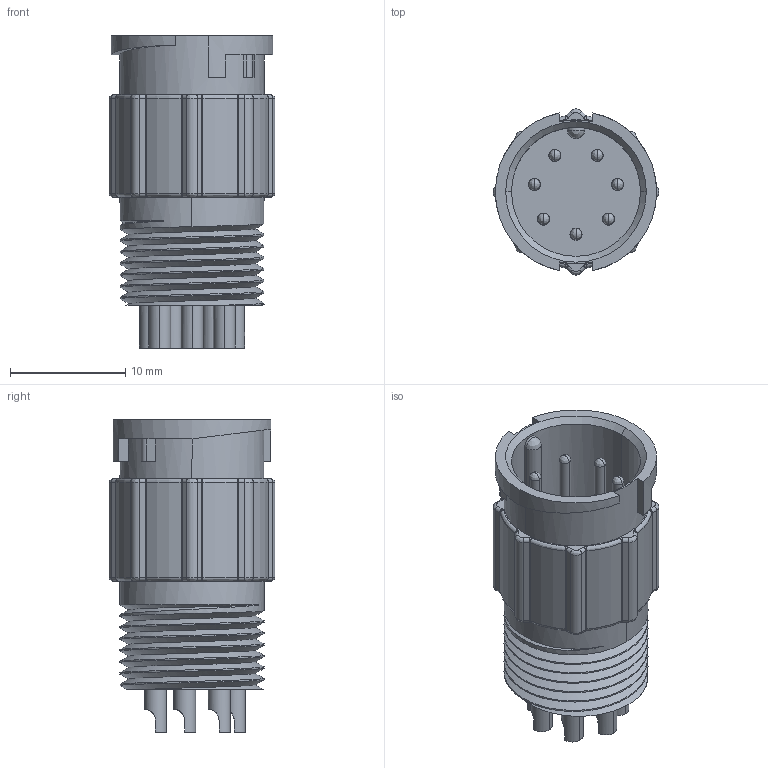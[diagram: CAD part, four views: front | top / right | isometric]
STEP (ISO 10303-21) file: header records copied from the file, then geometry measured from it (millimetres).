
FILE_DESCRIPTION (( 'STEP AP203' ), '1' );
FILE_NAME ('868-007-103R001.STEP', '2025-12-17T18:28:17', ( '' ), ( '' ), 'SwSTEP 2.0', 'SolidWorks 2020', '' );
FILE_SCHEMA (( 'CONFIG_CONTROL_DESIGN' ));
Length unit declared in the file: millimetre
Products named in the file (1): 868-007-103R001
Bounding box: 14.39 x 14.39 x 27.1 mm (x, y, z)
Volume: 2034.7 mm3; surface area: 2920.7 mm2
Topology: 1 solids, 1 shells, 397 faces, 960 edges, 561 vertices
Faces by surface type: cylinder 181, bspline 89, plane 68, cone 59
Entity records: 17762 total; most frequent: CARTESIAN_POINT 9088, ORIENTED_EDGE 1862, DIRECTION 1728, EDGE_CURVE 931, AXIS2_PLACEMENT_3D 675, VERTEX_POINT 561, EDGE_LOOP 422, ADVANCED_FACE 397
